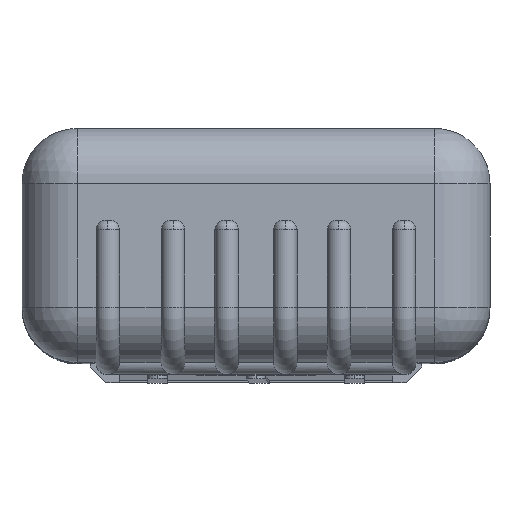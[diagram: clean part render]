
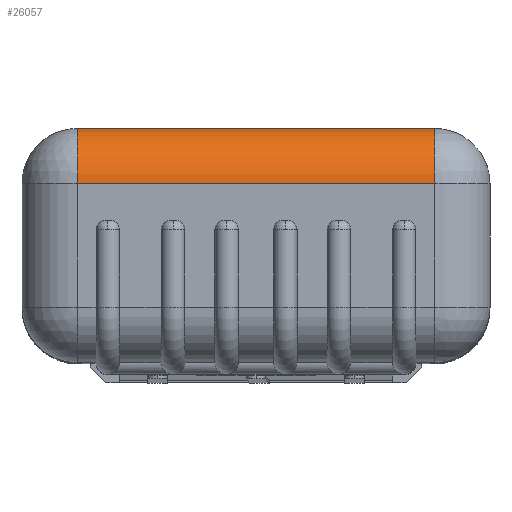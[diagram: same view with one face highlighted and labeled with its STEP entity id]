
A CAD part, top view. The second image highlights one B-rep face of the part: STEP entity #26057.
In plain terms, the highlighted cylindrical face has radius 8.992 mm (diameter 17.983 mm), a partial arc.
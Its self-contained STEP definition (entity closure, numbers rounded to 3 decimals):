
#220 = VERTEX_POINT ( 'NONE', #4028 ) ;
#2387 = EDGE_LOOP ( 'NONE', ( #15879, #15233, #39954, #24730 ) ) ;
#3383 = CIRCLE ( 'NONE', #39656, 8.992 ) ;
#4028 = CARTESIAN_POINT ( 'NONE',  ( -29.108, 38.1, -60.858 ) ) ;
#5773 = EDGE_CURVE ( 'NONE', #31546, #10104, #3383, .T. ) ;
#7014 = CARTESIAN_POINT ( 'NONE',  ( 29.108, 29.108, -60.858 ) ) ;
#7018 = CARTESIAN_POINT ( 'NONE',  ( 29.108, 38.1, -60.858 ) ) ;
#7079 = EDGE_CURVE ( 'NONE', #220, #36606, #14810, .T. ) ;
#7857 = FACE_OUTER_BOUND ( 'NONE', #2387, .T. ) ;
#8790 = DIRECTION ( 'NONE',  ( -1., 0., 0. ) ) ;
#9791 = DIRECTION ( 'NONE',  ( 1., 0., 0. ) ) ;
#10104 = VERTEX_POINT ( 'NONE', #39298 ) ;
#10225 = DIRECTION ( 'NONE',  ( 0., 0., -1. ) ) ;
#10967 = LINE ( 'NONE', #15035, #34440 ) ;
#11133 = VECTOR ( 'NONE', #9791, 1000. ) ;
#12029 = CARTESIAN_POINT ( 'NONE',  ( -29.108, 29.108, -60.858 ) ) ;
#12084 = CARTESIAN_POINT ( 'NONE',  ( 0., 29.108, -60.858 ) ) ;
#13964 = CARTESIAN_POINT ( 'NONE',  ( -29.108, 29.108, -69.85 ) ) ;
#14810 = CIRCLE ( 'NONE', #19407, 8.992 ) ;
#15035 = CARTESIAN_POINT ( 'NONE',  ( 0., 38.1, -60.858 ) ) ;
#15228 = DIRECTION ( 'NONE',  ( 0., 0., 1. ) ) ;
#15233 = ORIENTED_EDGE ( 'NONE', *, *, #40755, .F. ) ;
#15278 = DIRECTION ( 'NONE',  ( 0., 0., 1. ) ) ;
#15879 = ORIENTED_EDGE ( 'NONE', *, *, #5773, .T. ) ;
#19407 = AXIS2_PLACEMENT_3D ( 'NONE', #12029, #34365, #15228 ) ;
#19588 = LINE ( 'NONE', #32084, #11133 ) ;
#23875 = EDGE_CURVE ( 'NONE', #31546, #220, #10967, .T. ) ;
#24730 = ORIENTED_EDGE ( 'NONE', *, *, #23875, .F. ) ;
#26057 = ADVANCED_FACE ( 'NONE', ( #7857 ), #32288, .T. ) ;
#26154 = AXIS2_PLACEMENT_3D ( 'NONE', #12084, #34416, #15278 ) ;
#29336 = DIRECTION ( 'NONE',  ( -1., 0., 0. ) ) ;
#31546 = VERTEX_POINT ( 'NONE', #7018 ) ;
#32084 = CARTESIAN_POINT ( 'NONE',  ( 38.1, 29.108, -69.85 ) ) ;
#32288 = CYLINDRICAL_SURFACE ( 'NONE', #26154, 8.992 ) ;
#34365 = DIRECTION ( 'NONE',  ( -1., 0., 0. ) ) ;
#34416 = DIRECTION ( 'NONE',  ( -1., 0., 0. ) ) ;
#34440 = VECTOR ( 'NONE', #8790, 1000. ) ;
#36606 = VERTEX_POINT ( 'NONE', #13964 ) ;
#39298 = CARTESIAN_POINT ( 'NONE',  ( 29.108, 29.108, -69.85 ) ) ;
#39656 = AXIS2_PLACEMENT_3D ( 'NONE', #7014, #29336, #10225 ) ;
#39954 = ORIENTED_EDGE ( 'NONE', *, *, #7079, .F. ) ;
#40755 = EDGE_CURVE ( 'NONE', #36606, #10104, #19588, .T. ) ;
